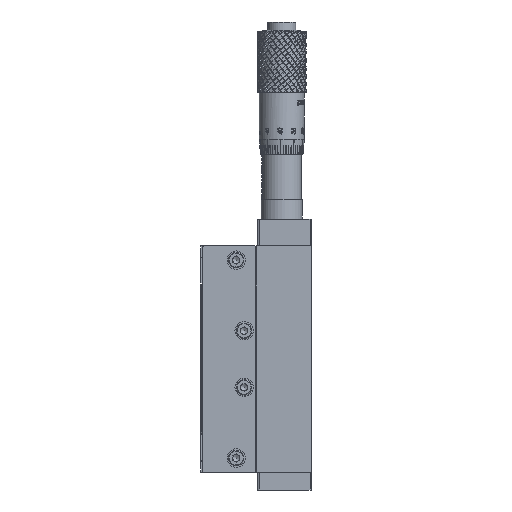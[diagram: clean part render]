
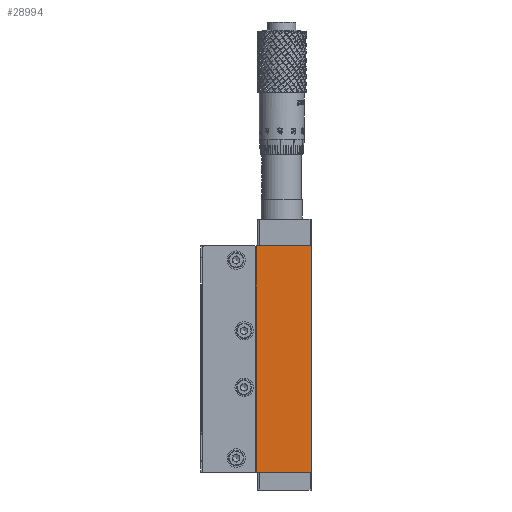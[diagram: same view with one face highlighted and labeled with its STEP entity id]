
A CAD part, front view. The second image highlights one B-rep face of the part: STEP entity #28994.
In plain terms, the highlighted planar face has unit normal (0, -1, 0).
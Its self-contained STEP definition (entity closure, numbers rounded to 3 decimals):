
#28994 = ADVANCED_FACE ( 'NONE', ( #104124 ), #286900, .F. ) ;
#61043 = VERTEX_POINT ( 'NONE', #285850 ) ;
#61045 = VERTEX_POINT ( 'NONE', #285854 ) ;
#61048 = VERTEX_POINT ( 'NONE', #285858 ) ;
#61055 = VERTEX_POINT ( 'NONE', #285866 ) ;
#104124 = FACE_OUTER_BOUND ( 'NONE', #341624, .T. ) ;
#152559 = AXIS2_PLACEMENT_3D ( 'NONE', #286878, #286904, #286906 ) ;
#200533 = CARTESIAN_POINT ( 'NONE',  ( -29.014, -47.311, 3.4 ) ) ;
#200537 = CARTESIAN_POINT ( 'NONE',  ( -9.514, -47.311, 3.4 ) ) ;
#200548 = DIRECTION ( 'NONE',  ( 1., 0., 0. ) ) ;
#200549 = CARTESIAN_POINT ( 'NONE',  ( -29.014, -47.311, 3.4 ) ) ;
#200550 = DIRECTION ( 'NONE',  ( 0., 0., -1. ) ) ;
#200552 = CARTESIAN_POINT ( 'NONE',  ( -29.014, -47.311, -76.6 ) ) ;
#200556 = DIRECTION ( 'NONE',  ( 1., 0., 0. ) ) ;
#200558 = DIRECTION ( 'NONE',  ( 0., 0., -1. ) ) ;
#220109 = ORIENTED_EDGE ( 'NONE', *, *, #311486, .T. ) ;
#220122 = ORIENTED_EDGE ( 'NONE', *, *, #311473, .F. ) ;
#220133 = ORIENTED_EDGE ( 'NONE', *, *, #311475, .F. ) ;
#220145 = ORIENTED_EDGE ( 'NONE', *, *, #311480, .T. ) ;
#232383 = LINE ( 'NONE', #200549, #232449 ) ;
#232413 = LINE ( 'NONE', #200537, #232433 ) ;
#232416 = LINE ( 'NONE', #200533, #232436 ) ;
#232433 = VECTOR ( 'NONE', #200550, 1000. ) ;
#232436 = VECTOR ( 'NONE', #200548, 1000. ) ;
#232438 = LINE ( 'NONE', #200552, #232443 ) ;
#232443 = VECTOR ( 'NONE', #200556, 1000. ) ;
#232449 = VECTOR ( 'NONE', #200558, 1000. ) ;
#285850 = CARTESIAN_POINT ( 'NONE',  ( -29.014, -47.311, -76.6 ) ) ;
#285854 = CARTESIAN_POINT ( 'NONE',  ( -9.514, -47.311, 3.4 ) ) ;
#285858 = CARTESIAN_POINT ( 'NONE',  ( -9.514, -47.311, -76.6 ) ) ;
#285866 = CARTESIAN_POINT ( 'NONE',  ( -29.014, -47.311, 3.4 ) ) ;
#286878 = CARTESIAN_POINT ( 'NONE',  ( -29.014, -47.311, 3.4 ) ) ;
#286900 = PLANE ( 'NONE',  #152559 ) ;
#286904 = DIRECTION ( 'NONE',  ( 0., 1., 0. ) ) ;
#286906 = DIRECTION ( 'NONE',  ( 0., 0., 1. ) ) ;
#311473 = EDGE_CURVE ( 'NONE', #61055, #61045, #232416, .T. ) ;
#311475 = EDGE_CURVE ( 'NONE', #61045, #61048, #232413, .T. ) ;
#311480 = EDGE_CURVE ( 'NONE', #61043, #61048, #232438, .T. ) ;
#311486 = EDGE_CURVE ( 'NONE', #61055, #61043, #232383, .T. ) ;
#341624 = EDGE_LOOP ( 'NONE', ( #220145, #220133, #220122, #220109 ) ) ;
